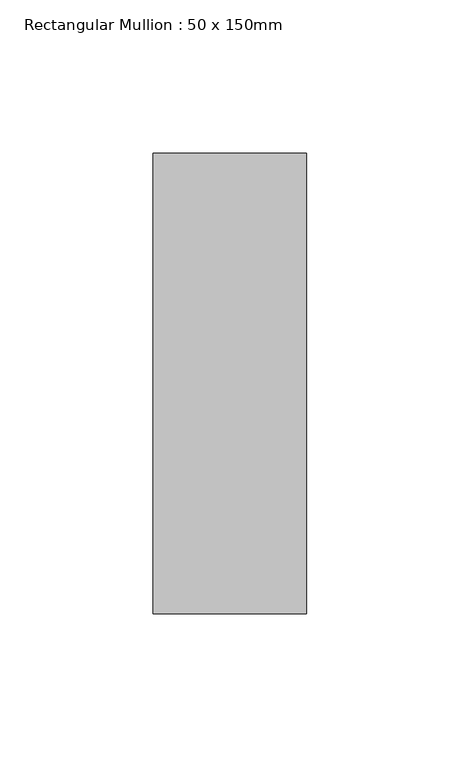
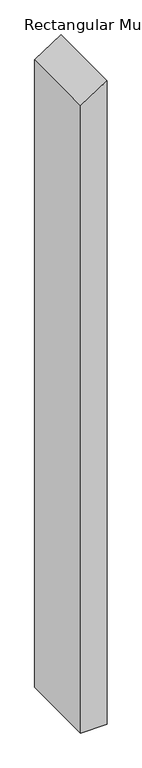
"""IFC4 building model written with IfcOpenShell, lengths in millimetres: member geometry, Rectangular Mullion : 50 x 150mm."""

from ifc_helpers import new_model, si_unit, frame, origin, place, context, project, spatial, polyline, outline, extrude, source, transform, mapped, element, save


def rectangular_mullion_50_x_150mm_1578c8df(model_context):
    return source(origin(), model_context, "Body", "SweptSolid", [
        extrude(outline(polyline([(-43.3780246, 25.0), (-75.7358326, -25.0), (-1325.2120983, -25.0), (-1325.2120983, 25.0), (-43.3780246, 25.0)])), frame((0.0, -75.0, 0.0), z_axis=(0.0, 1.0, 0.0), x_axis=(0.0, 0.0, 1.0)), (0.0, 0.0, 1.0), 150.0),
    ])


if __name__ == "__main__":
    model = new_model("IFC4")
    model_context = context("Model", 3, world=origin())
    ifc_project = project(units=[si_unit("LENGTHUNIT", "METRE", prefix="MILLI")], contexts=[model_context])
    site = spatial("IfcSite", under=ifc_project)
    building = spatial("IfcBuilding", under=site)
    placement = place(None, origin())
    rectangular_mullion_50_x_150mm_shape = rectangular_mullion_50_x_150mm_1578c8df(model_context)
    element("IfcMember", 1, ObjectType="Rectangular Mullion : 50 x 150mm", at=placement, inside=building, context=model_context, shape_type="MappedRepresentation", body=[
        mapped(rectangular_mullion_50_x_150mm_shape, transform((0.0, 0.0, 0.0), x_axis=(1.0, 0.0, 0.0), y_axis=(0.0, 1.0, 0.0), z_axis=(0.0, 0.0, 1.0))),
    ])
    save(model, "model.ifc")
